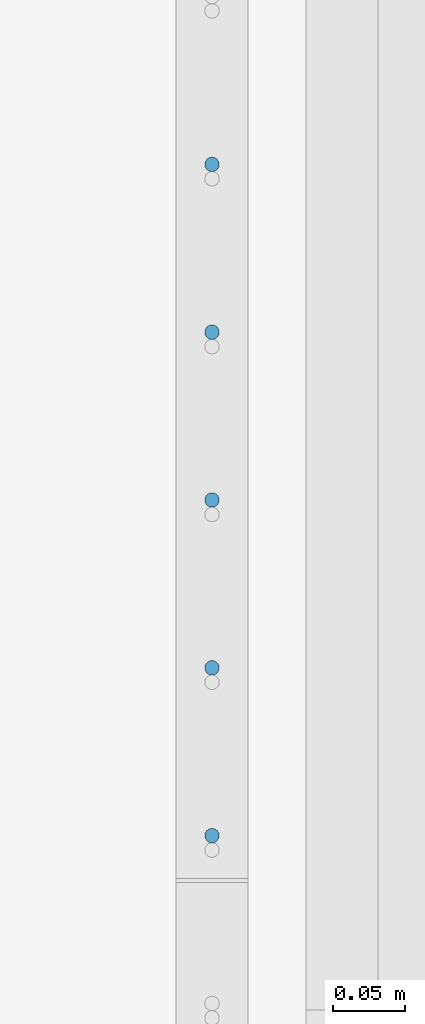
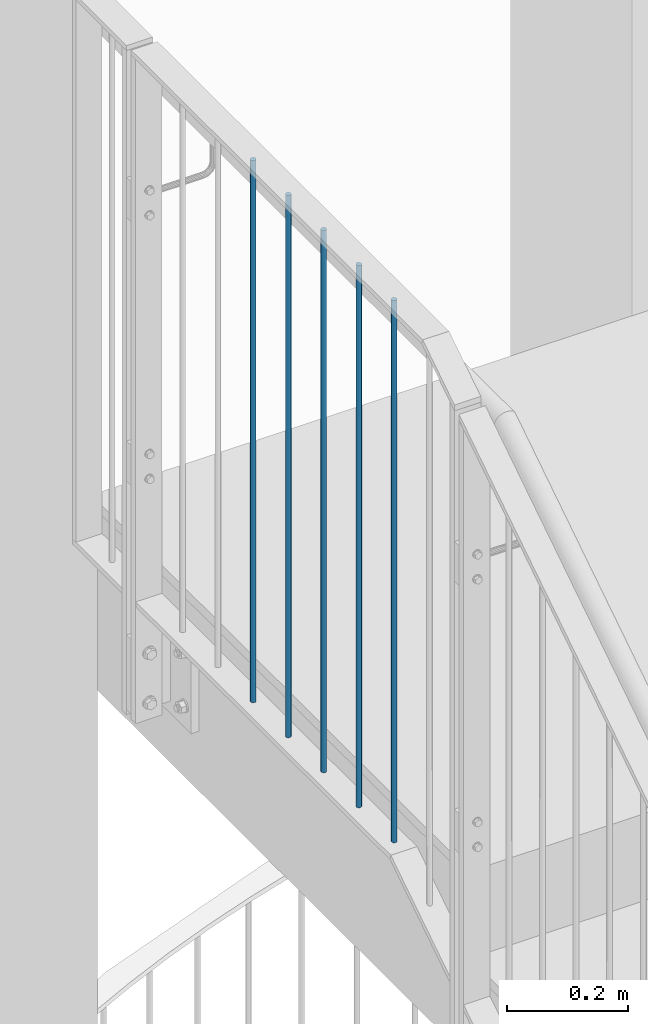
# One storey, part 16 of 296: 5 columns.
"""IFC2X3 building model written with IfcOpenShell, lengths in millimetres."""

from ifc_helpers import new_model, entity, si_unit, converted_unit, frame, origin, origin_with_axes, origin_2d, place, context, project, spatial, circle, extrude, material, element, save


model = new_model("IFC2X3")

# Units and contexts
model_context = context("Model", 3, precision=1e-09, world=origin_with_axes())
ifc_project = project(units=[si_unit("LENGTHUNIT", "METRE", prefix="MILLI"), si_unit("AREAUNIT", "SQUARE_METRE"), si_unit("VOLUMEUNIT", "CUBIC_METRE"), converted_unit("PLANEANGLEUNIT", "DEGREE", entity("IfcPlaneAngleMeasure", 0.01745329), si_unit("PLANEANGLEUNIT", "RADIAN"), dimensions=[0, 0, 0, 0, 0, 0, 0])], contexts=[model_context])

# Site, building, storey
site_placement = place(None, origin_with_axes())
site = spatial("IfcSite", under=ifc_project, at=site_placement, Name="TZD-S?d | Treppenhausgel?nder", CompositionType="ELEMENT")
building_placement = place(site_placement, origin_with_axes())
building = spatial("IfcBuilding", under=site, at=building_placement, Name="Struktur 1", CompositionType="ELEMENT")
storey_placement = place(building_placement, origin_with_axes())
storey = spatial("IfcBuildingStorey", under=building, at=storey_placement, Name="Default Storey", CompositionType="ELEMENT", Elevation=0.0)

# Columns
ifc_material = material(Name="S235JR")
for number, where, z_axis, x_axis in (
    (1, (-45.0, -845.8333333, 11725.0), (0.0, 0.0, 1.0), (0.0, 1.0, 0.0)),
    (2, (-45.0, -961.9444444, 11725.0), (0.0, 0.0, 1.0), (0.0, 1.0, 0.0)),
    (3, (-45.0, -1078.0555555, 11725.0), (0.0, 0.0, 1.0), (0.0, 1.0, 0.0)),
    (4, (-45.0, -1194.1666666, 11725.0), (0.0, 0.0, 1.0), (0.0, 1.0, 0.0)),
    (5, (-45.0, -1310.2777777, 11725.0), (0.0, 0.0, 1.0), (0.0, 1.0, 0.0)),
):
    element("IfcColumn", number, at=place(None, frame(where, z_axis=z_axis, x_axis=x_axis)), inside=storey, material=ifc_material, Name="-", ObjectType="-", context=model_context, shape_type="SweptSolid", body=[
        extrude(circle(Radius=5.0, at=origin_2d()), origin(), (0.0, 0.0, 1.0), 1090.0),
    ])

save(model, "model.ifc")
